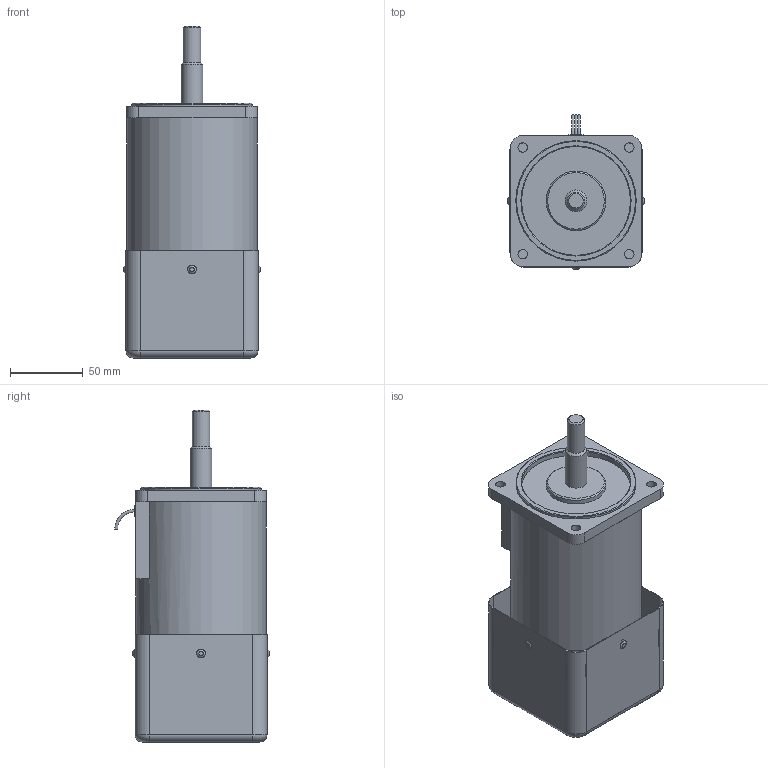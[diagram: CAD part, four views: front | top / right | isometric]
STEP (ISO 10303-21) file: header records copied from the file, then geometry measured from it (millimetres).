
FILE_DESCRIPTION (( 'STEP AP203' ), '1' );
FILE_NAME ('9SDG¤±-90F2HC.STEP', '2020-06-19T08:06:38', ( '' ), ( '' ), 'SwSTEP 2.0', 'SolidWorks 2012', '' );
FILE_SCHEMA (( 'CONFIG_CONTROL_DESIGN' ));
Length unit declared in the file: millimetre
Products named in the file (4): 9SDG､ｱ-90F2HC; FC-F2_ル遽; T.G; 9IDG､ｱ-90HC_ﾇ･ﾁﾘ
Assembly tree (3 placements, depth 2):
  9SDG､ｱ-90F2HC
    9IDG､ｱ-90HC_ﾇ･ﾁﾘ
    T.G
    FC-F2_ル遽
Bounding box: 94 x 106.5 x 228.8 mm (x, y, z)
Volume: 864162.6 mm3; surface area: 140584.2 mm2
Topology: 4 solids, 4 shells, 298 faces, 729 edges, 468 vertices
Faces by surface type: cylinder 166, plane 106, torus 13, cone 11, bspline 2
Full cylindrical faces by diameter (mm): 2 x3, 3 x12, 3.5 x2, 6.5 x4, 8 x1, 9 x1, 11.95 x1, 15 x1, 38 x1, 41 x1, 44.7 x1, 67 x2, 75 x1, 83 x1, 86.5 x1, 90 x1
Entity records: 9708 total; most frequent: CARTESIAN_POINT 2323, DIRECTION 1546, ORIENTED_EDGE 1330, EDGE_CURVE 665, AXIS2_PLACEMENT_3D 640, VERTEX_POINT 455, EDGE_LOOP 416, CIRCLE 338
